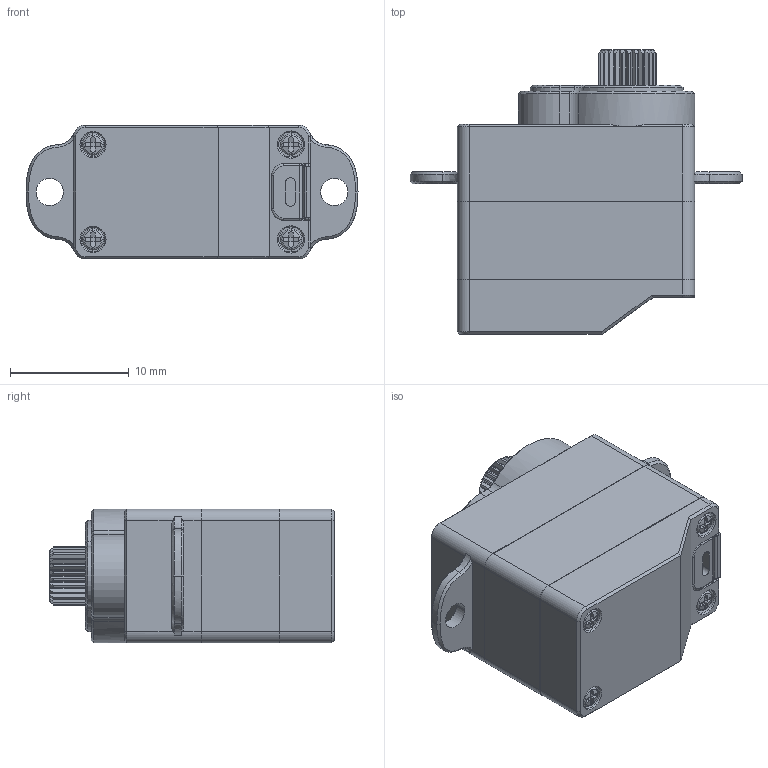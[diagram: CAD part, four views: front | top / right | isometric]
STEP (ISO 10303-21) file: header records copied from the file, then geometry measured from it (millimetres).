
FILE_DESCRIPTION((''),'2;1');
FILE_NAME('DDJ-MINICAR-A11','2025-07-12T',('扂'),(''),'PRO/ENGINEER BY PARAMETRIC TECHNOLOGY CORPORATION, 2010280','PRO/ENGINEER BY PARAMETRIC TECHNOLOGY CORPORATION, 2010280','');
FILE_SCHEMA(('CONFIG_CONTROL_DESIGN'));
Length unit declared in the file: millimetre
Products named in the file (1): DDJ-MINICAR-A11
Bounding box: 28 x 24 x 11.3 mm (x, y, z)
Volume: 4250.3 mm3; surface area: 1903.7 mm2
Topology: 1 solids, 1 shells, 539 faces, 1509 edges, 973 vertices
Faces by surface type: plane 221, cylinder 196, cone 51, bspline 35, torus 22, sphere 14
Entity records: 21275 total; most frequent: CARTESIAN_POINT 7678, ORIENTED_EDGE 2992, DIRECTION 2698, EDGE_CURVE 1496, AXIS2_PLACEMENT_3D 980, VERTEX_POINT 973, VECTOR 738, LINE 738
